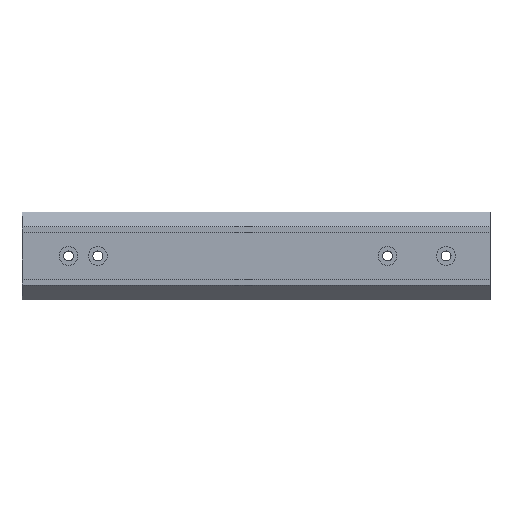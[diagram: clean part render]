
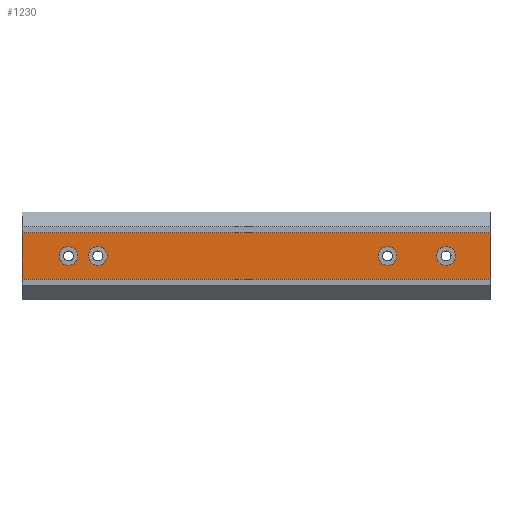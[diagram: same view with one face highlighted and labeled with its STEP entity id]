
A CAD part, top view. The second image highlights one B-rep face of the part: STEP entity #1230.
In plain terms, the highlighted planar face has unit normal (0, 0, 1).
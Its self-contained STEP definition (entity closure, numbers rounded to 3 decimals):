
#44 = PLANE('',#45);
#45 = AXIS2_PLACEMENT_3D('',#46,#47,#48);
#46 = CARTESIAN_POINT('',(0.,-15.,-20.));
#47 = DIRECTION('',(1.,0.,0.));
#48 = DIRECTION('',(0.,0.,1.));
#100 = PLANE('',#101);
#101 = AXIS2_PLACEMENT_3D('',#102,#103,#104);
#102 = CARTESIAN_POINT('',(159.9,15.,9.495));
#103 = DIRECTION('',(1.,0.,0.));
#104 = DIRECTION('',(-0.,0.,1.));
#413 = VERTEX_POINT('',#414);
#414 = CARTESIAN_POINT('',(0.,23.,20.));
#428 = PLANE('',#429);
#429 = AXIS2_PLACEMENT_3D('',#430,#431,#432);
#430 = CARTESIAN_POINT('',(-160.1,23.,13.));
#431 = DIRECTION('',(0.,-1.,0.));
#432 = DIRECTION('',(0.,0.,1.));
#440 = EDGE_CURVE('',#413,#441,#443,.T.);
#441 = VERTEX_POINT('',#442);
#442 = CARTESIAN_POINT('',(0.,7.,20.));
#443 = SURFACE_CURVE('',#444,(#448,#455),.PCURVE_S1.);
#444 = LINE('',#445,#446);
#445 = CARTESIAN_POINT('',(0.,4.,20.));
#446 = VECTOR('',#447,1.);
#447 = DIRECTION('',(0.,-1.,0.));
#448 = PCURVE('',#44,#449);
#449 = DEFINITIONAL_REPRESENTATION('',(#450),#454);
#450 = LINE('',#451,#452);
#451 = CARTESIAN_POINT('',(40.,-19.));
#452 = VECTOR('',#453,1.);
#453 = DIRECTION('',(0.,1.));
#454 = ( GEOMETRIC_REPRESENTATION_CONTEXT(2) 
PARAMETRIC_REPRESENTATION_CONTEXT() REPRESENTATION_CONTEXT('2D SPACE',''
  ) );
#455 = PCURVE('',#456,#461);
#456 = PLANE('',#457);
#457 = AXIS2_PLACEMENT_3D('',#458,#459,#460);
#458 = CARTESIAN_POINT('',(-160.1,23.,20.));
#459 = DIRECTION('',(0.,0.,-1.));
#460 = DIRECTION('',(0.,-1.,0.));
#461 = DEFINITIONAL_REPRESENTATION('',(#462),#466);
#462 = LINE('',#463,#464);
#463 = CARTESIAN_POINT('',(19.,-160.1));
#464 = VECTOR('',#465,1.);
#465 = DIRECTION('',(1.,0.));
#466 = ( GEOMETRIC_REPRESENTATION_CONTEXT(2) 
PARAMETRIC_REPRESENTATION_CONTEXT() REPRESENTATION_CONTEXT('2D SPACE',''
  ) );
#484 = PLANE('',#485);
#485 = AXIS2_PLACEMENT_3D('',#486,#487,#488);
#486 = CARTESIAN_POINT('',(-160.1,7.,20.));
#487 = DIRECTION('',(-0.,1.,0.));
#488 = DIRECTION('',(0.,0.,-1.));
#702 = VERTEX_POINT('',#703);
#703 = CARTESIAN_POINT('',(159.9,23.,20.));
#724 = EDGE_CURVE('',#702,#725,#727,.T.);
#725 = VERTEX_POINT('',#726);
#726 = CARTESIAN_POINT('',(159.9,7.,20.));
#727 = SURFACE_CURVE('',#728,(#732,#739),.PCURVE_S1.);
#728 = LINE('',#729,#730);
#729 = CARTESIAN_POINT('',(159.9,23.,20.));
#730 = VECTOR('',#731,1.);
#731 = DIRECTION('',(0.,-1.,0.));
#732 = PCURVE('',#100,#733);
#733 = DEFINITIONAL_REPRESENTATION('',(#734),#738);
#734 = LINE('',#735,#736);
#735 = CARTESIAN_POINT('',(10.505,-8.));
#736 = VECTOR('',#737,1.);
#737 = DIRECTION('',(0.,1.));
#738 = ( GEOMETRIC_REPRESENTATION_CONTEXT(2) 
PARAMETRIC_REPRESENTATION_CONTEXT() REPRESENTATION_CONTEXT('2D SPACE',''
  ) );
#739 = PCURVE('',#456,#740);
#740 = DEFINITIONAL_REPRESENTATION('',(#741),#745);
#741 = LINE('',#742,#743);
#742 = CARTESIAN_POINT('',(0.,-320.));
#743 = VECTOR('',#744,1.);
#744 = DIRECTION('',(1.,0.));
#745 = ( GEOMETRIC_REPRESENTATION_CONTEXT(2) 
PARAMETRIC_REPRESENTATION_CONTEXT() REPRESENTATION_CONTEXT('2D SPACE',''
  ) );
#1208 = EDGE_CURVE('',#441,#725,#1209,.T.);
#1209 = SURFACE_CURVE('',#1210,(#1214,#1221),.PCURVE_S1.);
#1210 = LINE('',#1211,#1212);
#1211 = CARTESIAN_POINT('',(-160.1,7.,20.));
#1212 = VECTOR('',#1213,1.);
#1213 = DIRECTION('',(1.,0.,0.));
#1214 = PCURVE('',#484,#1215);
#1215 = DEFINITIONAL_REPRESENTATION('',(#1216),#1220);
#1216 = LINE('',#1217,#1218);
#1217 = CARTESIAN_POINT('',(0.,0.));
#1218 = VECTOR('',#1219,1.);
#1219 = DIRECTION('',(0.,-1.));
#1220 = ( GEOMETRIC_REPRESENTATION_CONTEXT(2) 
PARAMETRIC_REPRESENTATION_CONTEXT() REPRESENTATION_CONTEXT('2D SPACE',''
  ) );
#1221 = PCURVE('',#456,#1222);
#1222 = DEFINITIONAL_REPRESENTATION('',(#1223),#1227);
#1223 = LINE('',#1224,#1225);
#1224 = CARTESIAN_POINT('',(16.,0.));
#1225 = VECTOR('',#1226,1.);
#1226 = DIRECTION('',(0.,-1.));
#1227 = ( GEOMETRIC_REPRESENTATION_CONTEXT(2) 
PARAMETRIC_REPRESENTATION_CONTEXT() REPRESENTATION_CONTEXT('2D SPACE',''
  ) );
#1230 = ADVANCED_FACE('',(#1231,#1257,#1288,#1319,#1350),#456,.F.);
#1231 = FACE_BOUND('',#1232,.F.);
#1232 = EDGE_LOOP('',(#1233,#1234,#1255,#1256));
#1233 = ORIENTED_EDGE('',*,*,#440,.F.);
#1234 = ORIENTED_EDGE('',*,*,#1235,.T.);
#1235 = EDGE_CURVE('',#413,#702,#1236,.T.);
#1236 = SURFACE_CURVE('',#1237,(#1241,#1248),.PCURVE_S1.);
#1237 = LINE('',#1238,#1239);
#1238 = CARTESIAN_POINT('',(-160.1,23.,20.));
#1239 = VECTOR('',#1240,1.);
#1240 = DIRECTION('',(1.,0.,0.));
#1241 = PCURVE('',#456,#1242);
#1242 = DEFINITIONAL_REPRESENTATION('',(#1243),#1247);
#1243 = LINE('',#1244,#1245);
#1244 = CARTESIAN_POINT('',(0.,-0.));
#1245 = VECTOR('',#1246,1.);
#1246 = DIRECTION('',(0.,-1.));
#1247 = ( GEOMETRIC_REPRESENTATION_CONTEXT(2) 
PARAMETRIC_REPRESENTATION_CONTEXT() REPRESENTATION_CONTEXT('2D SPACE',''
  ) );
#1248 = PCURVE('',#428,#1249);
#1249 = DEFINITIONAL_REPRESENTATION('',(#1250),#1254);
#1250 = LINE('',#1251,#1252);
#1251 = CARTESIAN_POINT('',(7.,0.));
#1252 = VECTOR('',#1253,1.);
#1253 = DIRECTION('',(0.,-1.));
#1254 = ( GEOMETRIC_REPRESENTATION_CONTEXT(2) 
PARAMETRIC_REPRESENTATION_CONTEXT() REPRESENTATION_CONTEXT('2D SPACE',''
  ) );
#1255 = ORIENTED_EDGE('',*,*,#724,.T.);
#1256 = ORIENTED_EDGE('',*,*,#1208,.F.);
#1257 = FACE_BOUND('',#1258,.F.);
#1258 = EDGE_LOOP('',(#1259));
#1259 = ORIENTED_EDGE('',*,*,#1260,.F.);
#1260 = EDGE_CURVE('',#1261,#1261,#1263,.T.);
#1261 = VERTEX_POINT('',#1262);
#1262 = CARTESIAN_POINT('',(148.1,15.,20.));
#1263 = SURFACE_CURVE('',#1264,(#1269,#1276),.PCURVE_S1.);
#1264 = CIRCLE('',#1265,3.2);
#1265 = AXIS2_PLACEMENT_3D('',#1266,#1267,#1268);
#1266 = CARTESIAN_POINT('',(144.9,15.,20.));
#1267 = DIRECTION('',(0.,0.,-1.));
#1268 = DIRECTION('',(1.,0.,0.));
#1269 = PCURVE('',#456,#1270);
#1270 = DEFINITIONAL_REPRESENTATION('',(#1271),#1275);
#1271 = CIRCLE('',#1272,3.2);
#1272 = AXIS2_PLACEMENT_2D('',#1273,#1274);
#1273 = CARTESIAN_POINT('',(8.,-305.));
#1274 = DIRECTION('',(0.,-1.));
#1275 = ( GEOMETRIC_REPRESENTATION_CONTEXT(2) 
PARAMETRIC_REPRESENTATION_CONTEXT() REPRESENTATION_CONTEXT('2D SPACE',''
  ) );
#1276 = PCURVE('',#1277,#1282);
#1277 = CYLINDRICAL_SURFACE('',#1278,3.2);
#1278 = AXIS2_PLACEMENT_3D('',#1279,#1280,#1281);
#1279 = CARTESIAN_POINT('',(144.9,15.,16.));
#1280 = DIRECTION('',(-0.,-0.,-1.));
#1281 = DIRECTION('',(1.,0.,0.));
#1282 = DEFINITIONAL_REPRESENTATION('',(#1283),#1287);
#1283 = LINE('',#1284,#1285);
#1284 = CARTESIAN_POINT('',(-6.283,-4.));
#1285 = VECTOR('',#1286,1.);
#1286 = DIRECTION('',(1.,-0.));
#1287 = ( GEOMETRIC_REPRESENTATION_CONTEXT(2) 
PARAMETRIC_REPRESENTATION_CONTEXT() REPRESENTATION_CONTEXT('2D SPACE',''
  ) );
#1288 = FACE_BOUND('',#1289,.F.);
#1289 = EDGE_LOOP('',(#1290));
#1290 = ORIENTED_EDGE('',*,*,#1291,.F.);
#1291 = EDGE_CURVE('',#1292,#1292,#1294,.T.);
#1292 = VERTEX_POINT('',#1293);
#1293 = CARTESIAN_POINT('',(128.1,15.,20.));
#1294 = SURFACE_CURVE('',#1295,(#1300,#1307),.PCURVE_S1.);
#1295 = CIRCLE('',#1296,3.2);
#1296 = AXIS2_PLACEMENT_3D('',#1297,#1298,#1299);
#1297 = CARTESIAN_POINT('',(124.9,15.,20.));
#1298 = DIRECTION('',(0.,0.,-1.));
#1299 = DIRECTION('',(1.,0.,0.));
#1300 = PCURVE('',#456,#1301);
#1301 = DEFINITIONAL_REPRESENTATION('',(#1302),#1306);
#1302 = CIRCLE('',#1303,3.2);
#1303 = AXIS2_PLACEMENT_2D('',#1304,#1305);
#1304 = CARTESIAN_POINT('',(8.,-285.));
#1305 = DIRECTION('',(0.,-1.));
#1306 = ( GEOMETRIC_REPRESENTATION_CONTEXT(2) 
PARAMETRIC_REPRESENTATION_CONTEXT() REPRESENTATION_CONTEXT('2D SPACE',''
  ) );
#1307 = PCURVE('',#1308,#1313);
#1308 = CYLINDRICAL_SURFACE('',#1309,3.2);
#1309 = AXIS2_PLACEMENT_3D('',#1310,#1311,#1312);
#1310 = CARTESIAN_POINT('',(124.9,15.,16.));
#1311 = DIRECTION('',(-0.,-0.,-1.));
#1312 = DIRECTION('',(1.,0.,0.));
#1313 = DEFINITIONAL_REPRESENTATION('',(#1314),#1318);
#1314 = LINE('',#1315,#1316);
#1315 = CARTESIAN_POINT('',(-6.283,-4.));
#1316 = VECTOR('',#1317,1.);
#1317 = DIRECTION('',(1.,-0.));
#1318 = ( GEOMETRIC_REPRESENTATION_CONTEXT(2) 
PARAMETRIC_REPRESENTATION_CONTEXT() REPRESENTATION_CONTEXT('2D SPACE',''
  ) );
#1319 = FACE_BOUND('',#1320,.F.);
#1320 = EDGE_LOOP('',(#1321));
#1321 = ORIENTED_EDGE('',*,*,#1322,.F.);
#1322 = EDGE_CURVE('',#1323,#1323,#1325,.T.);
#1323 = VERTEX_POINT('',#1324);
#1324 = CARTESIAN_POINT('',(29.1,15.,20.));
#1325 = SURFACE_CURVE('',#1326,(#1331,#1338),.PCURVE_S1.);
#1326 = CIRCLE('',#1327,3.2);
#1327 = AXIS2_PLACEMENT_3D('',#1328,#1329,#1330);
#1328 = CARTESIAN_POINT('',(25.9,15.,20.));
#1329 = DIRECTION('',(0.,0.,-1.));
#1330 = DIRECTION('',(1.,0.,0.));
#1331 = PCURVE('',#456,#1332);
#1332 = DEFINITIONAL_REPRESENTATION('',(#1333),#1337);
#1333 = CIRCLE('',#1334,3.2);
#1334 = AXIS2_PLACEMENT_2D('',#1335,#1336);
#1335 = CARTESIAN_POINT('',(8.,-186.));
#1336 = DIRECTION('',(0.,-1.));
#1337 = ( GEOMETRIC_REPRESENTATION_CONTEXT(2) 
PARAMETRIC_REPRESENTATION_CONTEXT() REPRESENTATION_CONTEXT('2D SPACE',''
  ) );
#1338 = PCURVE('',#1339,#1344);
#1339 = CYLINDRICAL_SURFACE('',#1340,3.2);
#1340 = AXIS2_PLACEMENT_3D('',#1341,#1342,#1343);
#1341 = CARTESIAN_POINT('',(25.9,15.,16.));
#1342 = DIRECTION('',(-0.,-0.,-1.));
#1343 = DIRECTION('',(1.,0.,0.));
#1344 = DEFINITIONAL_REPRESENTATION('',(#1345),#1349);
#1345 = LINE('',#1346,#1347);
#1346 = CARTESIAN_POINT('',(-6.283,-4.));
#1347 = VECTOR('',#1348,1.);
#1348 = DIRECTION('',(1.,-0.));
#1349 = ( GEOMETRIC_REPRESENTATION_CONTEXT(2) 
PARAMETRIC_REPRESENTATION_CONTEXT() REPRESENTATION_CONTEXT('2D SPACE',''
  ) );
#1350 = FACE_BOUND('',#1351,.F.);
#1351 = EDGE_LOOP('',(#1352));
#1352 = ORIENTED_EDGE('',*,*,#1353,.F.);
#1353 = EDGE_CURVE('',#1354,#1354,#1356,.T.);
#1354 = VERTEX_POINT('',#1355);
#1355 = CARTESIAN_POINT('',(19.1,15.,20.));
#1356 = SURFACE_CURVE('',#1357,(#1362,#1369),.PCURVE_S1.);
#1357 = CIRCLE('',#1358,3.2);
#1358 = AXIS2_PLACEMENT_3D('',#1359,#1360,#1361);
#1359 = CARTESIAN_POINT('',(15.9,15.,20.));
#1360 = DIRECTION('',(0.,0.,-1.));
#1361 = DIRECTION('',(1.,0.,0.));
#1362 = PCURVE('',#456,#1363);
#1363 = DEFINITIONAL_REPRESENTATION('',(#1364),#1368);
#1364 = CIRCLE('',#1365,3.2);
#1365 = AXIS2_PLACEMENT_2D('',#1366,#1367);
#1366 = CARTESIAN_POINT('',(8.,-176.));
#1367 = DIRECTION('',(0.,-1.));
#1368 = ( GEOMETRIC_REPRESENTATION_CONTEXT(2) 
PARAMETRIC_REPRESENTATION_CONTEXT() REPRESENTATION_CONTEXT('2D SPACE',''
  ) );
#1369 = PCURVE('',#1370,#1375);
#1370 = CYLINDRICAL_SURFACE('',#1371,3.2);
#1371 = AXIS2_PLACEMENT_3D('',#1372,#1373,#1374);
#1372 = CARTESIAN_POINT('',(15.9,15.,16.));
#1373 = DIRECTION('',(-0.,-0.,-1.));
#1374 = DIRECTION('',(1.,0.,0.));
#1375 = DEFINITIONAL_REPRESENTATION('',(#1376),#1380);
#1376 = LINE('',#1377,#1378);
#1377 = CARTESIAN_POINT('',(-6.283,-4.));
#1378 = VECTOR('',#1379,1.);
#1379 = DIRECTION('',(1.,-0.));
#1380 = ( GEOMETRIC_REPRESENTATION_CONTEXT(2) 
PARAMETRIC_REPRESENTATION_CONTEXT() REPRESENTATION_CONTEXT('2D SPACE',''
  ) );
